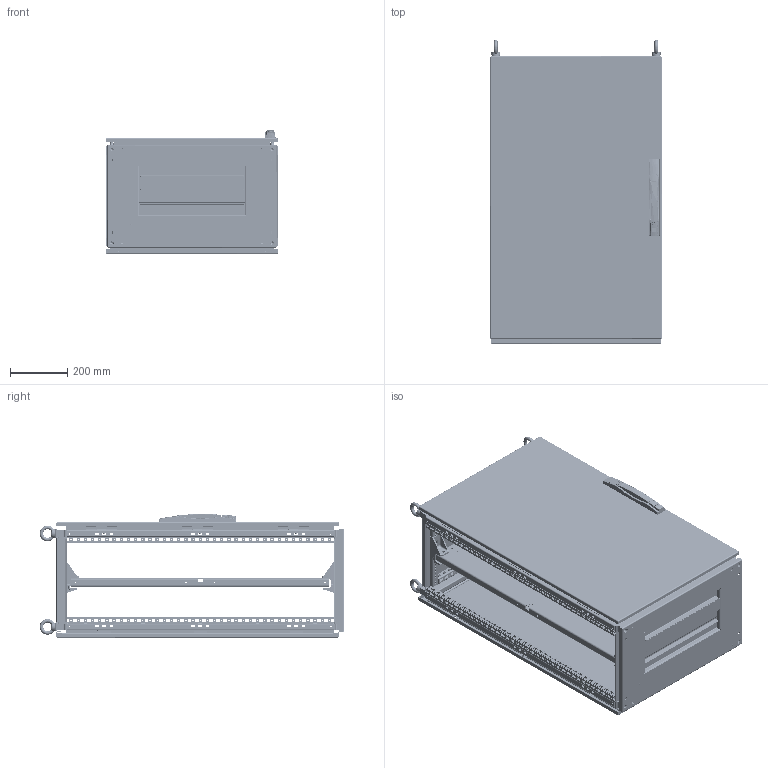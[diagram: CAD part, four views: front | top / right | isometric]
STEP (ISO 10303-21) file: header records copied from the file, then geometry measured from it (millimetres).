
FILE_DESCRIPTION (( 'STEP AP203' ), '1' );
FILE_NAME ('p2k1064.STEP', '2016-09-09T15:09:45', ( '' ), ( '' ), 'SwSTEP 2.0', 'SolidWorks 2014', '' );
FILE_SCHEMA (( 'CONFIG_CONTROL_DESIGN' ));
Length unit declared in the file: millimetre
Products named in the file (73): 87920638_87920638; 89124210_89124210; 89126234; 87931368_SLEEVE; 60127212; 89128045; p2k1064; 51145001_Extended; 51140001; 89128768_89124438; 89122602; 50612100; 60100041_60100041; 60127207; 89128330; 11358765; 11358764; 89091664_875472289; 87790199; 89128476_89001805; 89127311; 89134078_60127430; 89124256_89124256; 46120001_Compressed; 60127013; 11258013; 89124179_89124179; 89124407; 89128474; 89127394_87934847; 89128843_BBD; 89124408_89124408; 51223001; 89128032; 11258012; 89126139_89124180; 89124209_Installed LH Bot side - pin in; 89143201; 89127278; 89126670_89001786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
Assembly tree (145 placements, depth 5):
  p2k1064
    89128330
      60127013  x8
      89128032  x4
      89126103  x4
      89127976  x4
      89126108  x4
      89128006  x4
      89128045  x4
    89124255_89124255  x6
      89124256_89124256
      89124408_89124408
      89133232_Cometic Threads
    89127278
      89127311
        89127365_2000x600
        60100041_60100041  x2
          87931527_87931527
          87931368_SLEEVE
      89127394_87934847
    89126606
    89120016  x4
    89122652  x4
    89124209_Installed LH Bot side - pin in  x3
      89124210_89124210
      89122602
      87790199
      89124407
      89133232_Cometic Threads
    89128843_BBD
      89128768_89124438
        89128783_89124437
        60100041_60100041  x2
          87931527_87931527
          87931368_SLEEVE
        89124458_After Weld  x3
        60127172_60127172  x3
        87920638_87920638  x12
      89128825_89124178
        89091664_875472289  x4
        89124179_89124179  x2
        89126139_89124180  x2
      89128810_89127132
      89134078_60127430
        11458037
        11458036
        51140001
        11358764
        11258013
        11258012
        11358763
        51231001
        11258014
        46139001_46139001  x2
        51145001_Extended
        11358765
        46120001_Compressed
        51223001
        51138001_Compressed
        60127093
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Bounding box: 598.8 x 1061.13 x 432.69 mm (x, y, z)
Volume: 8552558 mm3; surface area: 8083965.7 mm2
Topology: 154 solids, 154 shells, 15127 faces, 40623 edges, 25885 vertices
Faces by surface type: plane 8036, cylinder 5332, torus 674, bspline 569, cone 435, sphere 81
Entity records: 201224 total; most frequent: CARTESIAN_POINT 49061, ORIENTED_EDGE 29922, DIRECTION 28991, EDGE_CURVE 14961, AXIS2_PLACEMENT_3D 9898, VERTEX_POINT 9518, VECTOR 9195, LINE 9195
